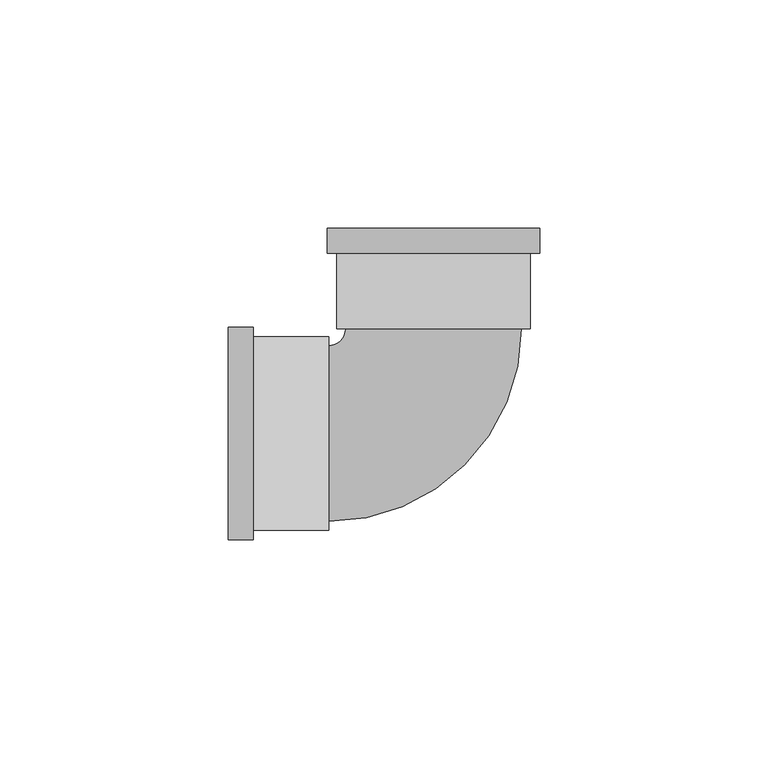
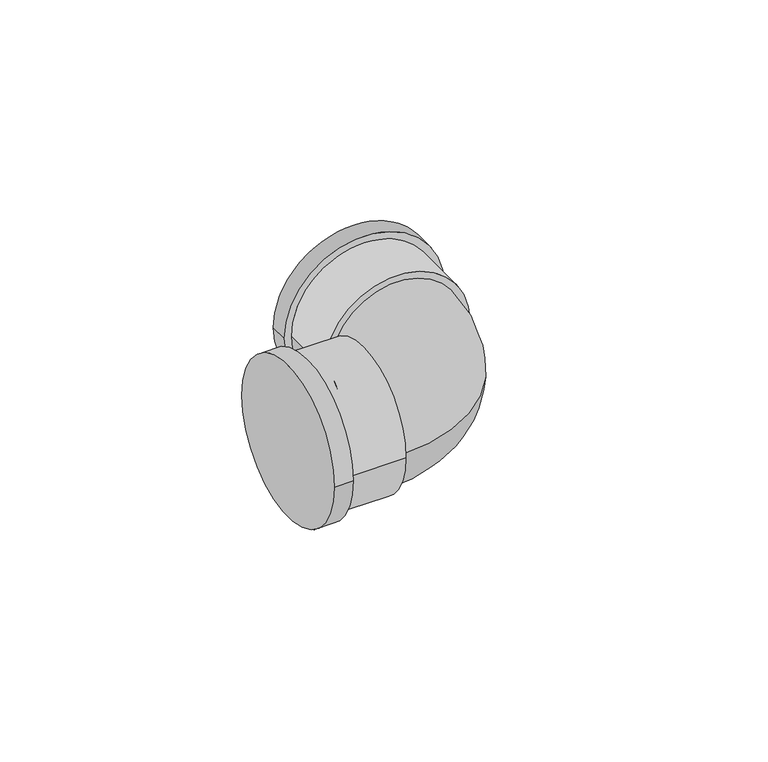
"""IFC4 building model written with IfcOpenShell, lengths in millimetres: pipe fitting geometry, Cotovelo - PVC - CW : Padrão."""

from ifc_helpers import new_model, si_unit, point, frame, origin, place, context, project, spatial, circle_curve, ellipse_curve, trimmed, source, transform, mapped, element, save
from ifc_brep_helpers import plane_surface, cylinder_surface, revolved_surface, advanced_brep


def pipe_fitting_25c7929a(model_context):
    return source(origin(), model_context, "Body", "AdvancedBrep", [
        advanced_brep(
        [(-44.9999824, -23.2925, 0.0), (-44.9999824, 23.2925, 0.0), (-39.4999824, -23.2925, 0.0), (-39.4999824, 23.2925, 0.0), (-39.4999824, -21.175, 0.0), (-39.4999824, 21.175, 0.0), (-22.9999824, 21.175, 0.0), (-22.9999824, -21.175, 0.0), (-22.9999824, -19.25, 0.0), (-22.9999824, 19.25, 0.0), (-19.2499824, 22.9999971, 0.0), (19.2500176, 22.9999678, 0.0), (21.1750176, 22.9999663, 0.0), (-21.1749824, 22.9999986, 0.0), (-23.2924657, 45.0000002, 0.0), (23.2925343, 44.9999647, 0.0), (21.1750301, 39.4999663, 0.0), (-21.1749699, 39.4999986, 0.0), (-23.2924699, 39.5000002, 0.0), (23.2925301, 39.4999647, 0.0)],
        [
            (0, 1, circle_curve(frame((-44.9999824, 0.0, 0.0), z_axis=(-1.0, 0.0, 0.0), x_axis=(0.0, 1.0, 0.0)), 23.2925)),
            (1, 0, circle_curve(frame((-44.9999824, 0.0, 0.0), z_axis=(-1.0, 0.0, 0.0), x_axis=(0.0, 1.0, 0.0)), 23.2925)),
            (2, 3, circle_curve(frame((-39.4999824, 0.0, 0.0), z_axis=(1.0, 0.0, 0.0), x_axis=(0.0, 1.0, 0.0)), 23.2925)),
            (3, 2, circle_curve(frame((-39.4999824, 0.0, 0.0), z_axis=(1.0, 0.0, 0.0), x_axis=(0.0, 1.0, 0.0)), 23.2925)),
            (4, 5, circle_curve(frame((-39.4999824, 0.0, 0.0), z_axis=(-1.0, 0.0, 0.0), x_axis=(0.0, -1.0, 0.0)), 21.175)),
            (5, 4, circle_curve(frame((-39.4999824, 0.0, 0.0), z_axis=(-1.0, 0.0, 0.0), x_axis=(0.0, -1.0, 0.0)), 21.175)),
            (0, 2),
            (3, 1),
            (6, 7, circle_curve(frame((-22.9999824, 0.0, 0.0), z_axis=(1.0, 0.0, 0.0), x_axis=(0.0, -1.0, 0.0)), 21.175)),
            (7, 6, circle_curve(frame((-22.9999824, 0.0, 0.0), z_axis=(1.0, 0.0, 0.0), x_axis=(0.0, -1.0, 0.0)), 21.175)),
            (8, 9, circle_curve(frame((-22.9999824, 0.0, 0.0), z_axis=(-1.0, 0.0, 0.0), x_axis=(0.0, 1.0, 0.0)), 19.25)),
            (9, 8, circle_curve(frame((-22.9999824, 0.0, 0.0), z_axis=(-1.0, 0.0, 0.0), x_axis=(0.0, 1.0, 0.0)), 19.25)),
            (6, 5),
            (4, 7),
            (10, 9, circle_curve(frame((-22.9999824, 23.0, 0.0), z_axis=(0.0, 0.0, -1.0), x_axis=(0.0, -1.0, 0.0)), 3.75)),
            (8, 11, circle_curve(frame((-22.9999824, 23.0, 0.0), z_axis=(0.0, 0.0, 1.0), x_axis=(0.0, -1.0, 0.0)), 42.25)),
            (11, 10, circle_curve(frame((1.76e-05, 22.9999824, 0.0), z_axis=(-7.632203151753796e-07, -0.9999999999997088, 0.0), x_axis=(-0.9999999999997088, 7.632203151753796e-07, 0.0)), 19.25)),
            (10, 11, circle_curve(frame((1.76e-05, 22.9999824, 0.0), z_axis=(-7.632203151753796e-07, -0.9999999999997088, 0.0), x_axis=(-0.9999999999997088, 7.632203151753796e-07, 0.0)), 19.25)),
            (12, 13, circle_curve(frame((1.76e-05, 22.9999824, 0.0), z_axis=(-7.632198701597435e-07, -0.9999999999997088, 0.0), x_axis=(-0.9999999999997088, 7.632198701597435e-07, 0.0)), 21.175)),
            (13, 12, circle_curve(frame((1.76e-05, 22.9999824, 0.0), z_axis=(-7.632198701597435e-07, -0.9999999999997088, 0.0), x_axis=(-0.9999999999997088, 7.632198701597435e-07, 0.0)), 21.175)),
            (14, 15, circle_curve(frame((3.43e-05, 44.9999824, 0.0), z_axis=(7.632203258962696e-07, 0.9999999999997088, 0.0), x_axis=(0.9999999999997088, -7.632203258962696e-07, 0.0)), 23.2925)),
            (15, 14, circle_curve(frame((3.43e-05, 44.9999824, 0.0), z_axis=(7.632203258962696e-07, 0.9999999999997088, 0.0), x_axis=(0.9999999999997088, -7.632203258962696e-07, 0.0)), 23.2925)),
            (12, 16),
            (16, 17, circle_curve(frame((3.01e-05, 39.4999824, 0.0), z_axis=(-7.632198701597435e-07, -0.9999999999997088, 0.0), x_axis=(-0.9999999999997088, 7.632198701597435e-07, 0.0)), 21.175)),
            (17, 13),
            (17, 16, circle_curve(frame((3.01e-05, 39.4999824, 0.0), z_axis=(-7.632198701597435e-07, -0.9999999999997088, 0.0), x_axis=(-0.9999999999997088, 7.632198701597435e-07, 0.0)), 21.175)),
            (18, 19, circle_curve(frame((3.01e-05, 39.4999824, 0.0), z_axis=(-7.632203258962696e-07, -0.9999999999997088, 0.0), x_axis=(0.9999999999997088, -7.632203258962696e-07, 0.0)), 23.2925)),
            (19, 18, circle_curve(frame((3.01e-05, 39.4999824, 0.0), z_axis=(-7.632203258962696e-07, -0.9999999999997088, 0.0), x_axis=(0.9999999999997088, -7.632203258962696e-07, 0.0)), 23.2925)),
            (14, 18),
            (19, 15),
        ],
        [
            plane_surface(frame((-44.9999824, 0.0, 0.0), z_axis=(-1.0, 0.0, 0.0), x_axis=(0.0, 0.0, 1.0))),
            plane_surface(frame((-39.4999824, 0.0, 0.0), z_axis=(1.0, 0.0, 0.0), x_axis=(0.0, 0.0, 1.0))),
            cylinder_surface(frame((-44.9999824, 0.0, 0.0), z_axis=(-1.0, 0.0, 0.0), x_axis=(0.0, 1.0, 0.0)), 23.2925),
            plane_surface(frame((-22.9999824, 0.0, 0.0), z_axis=(1.0, 0.0, 0.0), x_axis=(0.0, 0.0, 1.0))),
            cylinder_surface(frame((-22.9999824, 0.0, 0.0), z_axis=(1.0, 0.0, 0.0), x_axis=(0.0, -1.0, 0.0)), 21.175),
            revolved_surface(trimmed(ellipse_curve(frame((-22.9999824, 0.0, 0.0), z_axis=(-1.0, 0.0, 0.0), x_axis=(0.0, 1.0, 0.0)), 19.25, 19.25), [point((-22.9999824, -19.25, 0.0))], [point((-22.9999824, 19.25, 0.0))], True, "CARTESIAN"), (-22.9999824, 23.0, 0.0), (0.0, 0.0, 1.0)),
            revolved_surface(trimmed(ellipse_curve(frame((-22.9999824, 0.0, 0.0), z_axis=(-1.0, 0.0, 0.0), x_axis=(0.0, 1.0, 0.0)), 19.25, 19.25), [point((-22.9999824, 19.25, 0.0))], [point((-22.9999824, -19.25, 0.0))], True, "CARTESIAN"), (-22.9999824, 23.0, 0.0), (0.0, 0.0, 1.0)),
            plane_surface(frame((1.76e-05, 22.9999824, 0.0), z_axis=(-7.632198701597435e-07, -0.9999999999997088, 0.0), x_axis=(0.0, 0.0, 1.0))),
            plane_surface(frame((3.43e-05, 44.9999824, 0.0), z_axis=(7.632198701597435e-07, 0.9999999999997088, 0.0), x_axis=(0.0, 0.0, 1.0))),
            cylinder_surface(frame((1.76e-05, 22.9999824, 0.0), z_axis=(-7.632198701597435e-07, -0.9999999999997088, 0.0), x_axis=(-0.9999999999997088, 7.632198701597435e-07, 0.0)), 21.175),
            plane_surface(frame((3.01e-05, 39.4999824, 0.0), z_axis=(-7.632203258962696e-07, -0.9999999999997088, 0.0), x_axis=(0.0, 0.0, 1.0))),
            cylinder_surface(frame((3.43e-05, 44.9999824, 0.0), z_axis=(7.632203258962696e-07, 0.9999999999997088, 0.0), x_axis=(0.9999999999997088, -7.632203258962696e-07, 0.0)), 23.2925),
        ],
        [
            (0, [[1, 2]]),
            (1, [[3, 4], [5, 6]]),
            (2, [[-1, 7, -4, 8]]),
            (2, [[-2, -8, -3, -7]]),
            (3, [[9, 10], [11, 12]]),
            (4, [[-9, 13, -5, 14]]),
            (4, [[-10, -14, -6, -13]]),
            (5, [[15, -11, 16, 17]]),
            (6, [[-15, 18, -16, -12]]),
            (7, [[19, 20], [-17, -18]]),
            (8, [[21, 22]]),
            (9, [[-19, 23, 24, 25]]),
            (9, [[-20, -25, 26, -23]]),
            (10, [[27, 28], [-24, -26]]),
            (11, [[-21, 29, -28, 30]]),
            (11, [[-22, -30, -27, -29]]),
        ],
    ),
    ])


if __name__ == "__main__":
    model = new_model("IFC4")
    model_context = context("Model", 3, world=origin())
    ifc_project = project(units=[si_unit("LENGTHUNIT", "METRE", prefix="MILLI")], contexts=[model_context])
    site = spatial("IfcSite", under=ifc_project)
    building = spatial("IfcBuilding", under=site)
    placement = place(None, origin())
    pipe_fitting_shape = pipe_fitting_25c7929a(model_context)
    element("IfcPipeFitting", 1, ObjectType="Cotovelo - PVC - CW : Padrão", at=placement, inside=building, context=model_context, shape_type="MappedRepresentation", body=[
        mapped(pipe_fitting_shape, transform((0.0, 0.0, 0.0), x_axis=(1.0, 0.0, 0.0), y_axis=(0.0, 1.0, 0.0), z_axis=(0.0, 0.0, 1.0))),
    ])
    save(model, "model.ifc")
